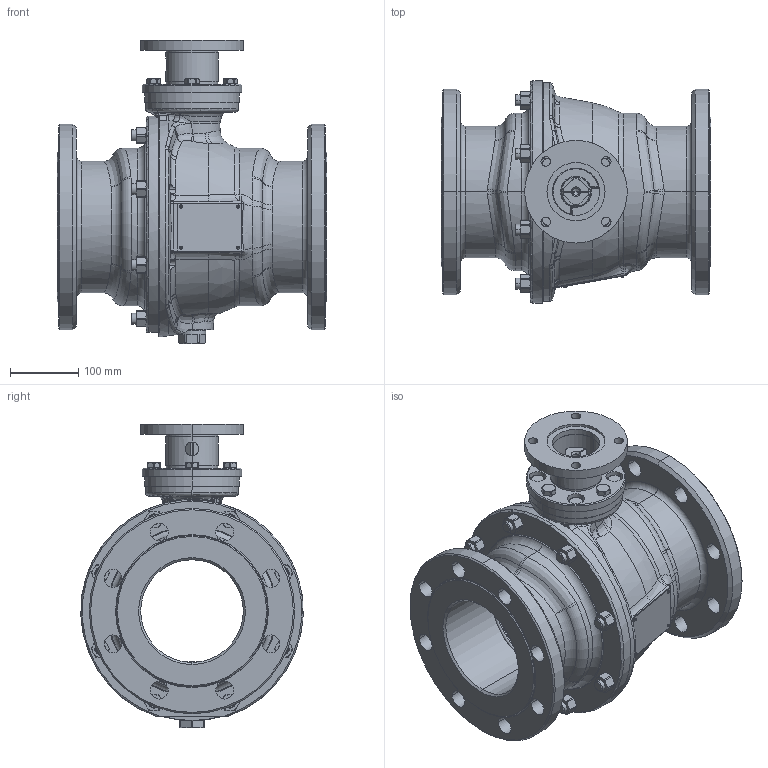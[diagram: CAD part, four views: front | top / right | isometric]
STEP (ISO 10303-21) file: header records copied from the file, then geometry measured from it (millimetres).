
FILE_DESCRIPTION((''),'2;1');
FILE_NAME('KHI150_F12','2015-08-11T',('schwaba'),('RAND'),'PRO/ENGINEER BY PARAMETRIC TECHNOLOGY CORPORATION, 2013410','PRO/ENGINEER BY PARAMETRIC TECHNOLOGY CORPORATION, 2013410','');
FILE_SCHEMA(('CONFIG_CONTROL_DESIGN'));
Products named in the file (1): KHI150_F12
Bounding box: 394 x 324.87 x 443.5 mm (x, y, z)
Volume: 10592723 mm3; surface area: 1407445.9 mm2
Topology: 1 solids, 5 shells, 1400 faces, 3373 edges, 2032 vertices
Faces by surface type: cylinder 352, cone 329, bspline 283, plane 281, torus 130, sphere 25
Entity records: 109900 total; most frequent: CARTESIAN_POINT 78940, ORIENTED_EDGE 6706, DIRECTION 6290, EDGE_CURVE 3353, AXIS2_PLACEMENT_3D 2737, VERTEX_POINT 2032, CIRCLE 1620, EDGE_LOOP 1543
